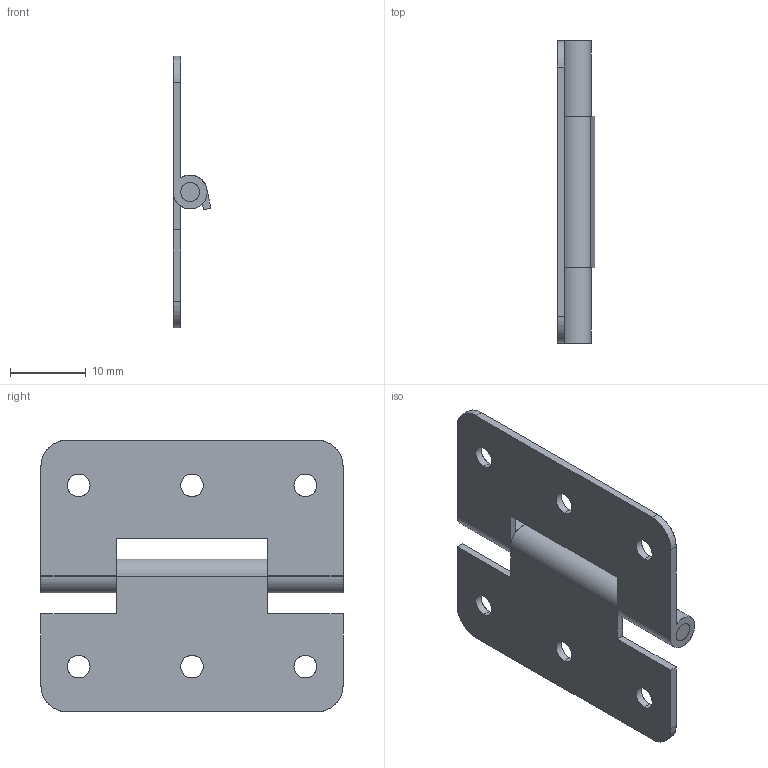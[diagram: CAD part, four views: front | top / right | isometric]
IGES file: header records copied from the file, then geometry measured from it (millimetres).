
Start section: SolidWorks IGES FILE using analytic representation for surfaces
Global section: file name: E:\妙子\仕事\solidworks\ヒンジ0829\DEH-53\DEH-53-3\DEH-53-3.IGS; native system: SolidWorks 2003 by SolidWorks Corporation; preprocessor: Version 5.3; author: 妙子,,; organization: 11; date: 130829.194340; units: millimetre
Bounding box: 5 x 40 x 36 mm (x, y, z)
Surface area: 3695.4 mm2 (no closed solid volume)
Topology: 0 solids, 0 shells, 48 faces, 1032 edges, 1032 vertices
Faces by surface type: revolution 26, bspline 22
